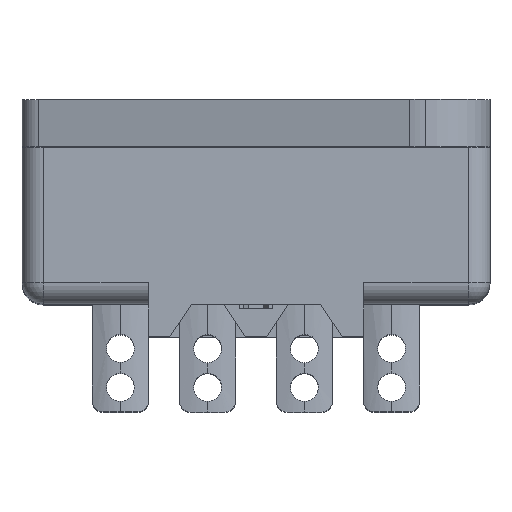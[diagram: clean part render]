
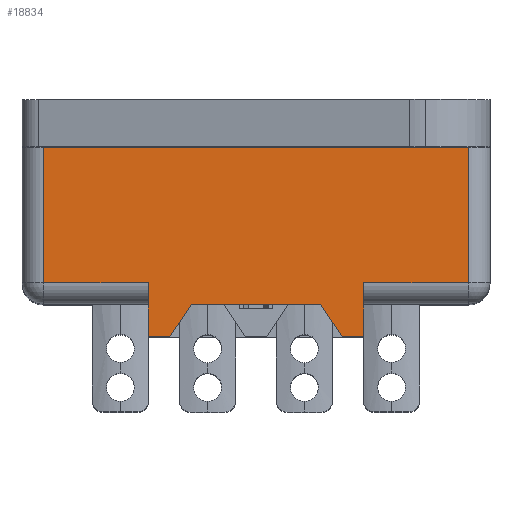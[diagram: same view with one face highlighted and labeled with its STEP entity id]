
A CAD part, top view. The second image highlights one B-rep face of the part: STEP entity #18834.
In plain terms, the highlighted planar face has unit normal (0, 0, 1).
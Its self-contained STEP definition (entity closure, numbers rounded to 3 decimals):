
#4170 = VECTOR ( 'NONE', #5164, 1000. ) ;
#5162 = LINE ( 'NONE', #5163, #4170 ) ;
#5163 = CARTESIAN_POINT ( 'NONE',  ( 1.5, -7.3, 12.6 ) ) ;
#5164 = DIRECTION ( 'NONE',  ( -1., 0., 0. ) ) ;
#7113 = VECTOR ( 'NONE', #24238, 1000. ) ;
#7157 = EDGE_CURVE ( 'NONE', #9246, #9247, #24236, .T. ) ;
#7166 = EDGE_CURVE ( 'NONE', #9259, #9260, #24263, .T. ) ;
#7234 = EDGE_CURVE ( 'NONE', #9247, #9261, #24493, .T. ) ;
#7280 = EDGE_CURVE ( 'NONE', #9371, #9370, #24631, .T. ) ;
#7283 = EDGE_CURVE ( 'NONE', #9260, #9373, #14667, .T. ) ;
#7284 = EDGE_CURVE ( 'NONE', #9372, #9373, #14670, .T. ) ;
#7285 = EDGE_CURVE ( 'NONE', #8986, #9259, #14673, .T. ) ;
#7286 = EDGE_CURVE ( 'NONE', #9261, #8985, #14676, .T. ) ;
#7287 = EDGE_CURVE ( 'NONE', #9246, #9374, #14679, .T. ) ;
#7288 = EDGE_CURVE ( 'NONE', #9374, #9371, #14682, .T. ) ;
#7289 = EDGE_CURVE ( 'NONE', #9370, #9372, #14685, .T. ) ;
#7485 = VECTOR ( 'NONE', #24633, 1000. ) ;
#7487 = VECTOR ( 'NONE', #14669, 1000. ) ;
#7488 = VECTOR ( 'NONE', #14672, 1000. ) ;
#7489 = VECTOR ( 'NONE', #14675, 1000. ) ;
#7491 = VECTOR ( 'NONE', #14678, 1000. ) ;
#7492 = VECTOR ( 'NONE', #14681, 1000. ) ;
#7493 = VECTOR ( 'NONE', #14684, 1000. ) ;
#7494 = VECTOR ( 'NONE', #14687, 1000. ) ;
#7866 = AXIS2_PLACEMENT_3D ( 'NONE', #13422, #13423, #13424 ) ;
#7887 = FACE_OUTER_BOUND ( 'NONE', #8266, .T. ) ;
#7967 = VECTOR ( 'NONE', #24265, 1000. ) ;
#8266 = EDGE_LOOP ( 'NONE', ( #17910, #17912, #17911, #17913, #17914, #17915, #17917, #17918, #17916, #17920, #17919, #17921 ) ) ;
#8985 = VERTEX_POINT ( 'NONE', #25116 ) ;
#8986 = VERTEX_POINT ( 'NONE', #25117 ) ;
#9246 = VERTEX_POINT ( 'NONE', #25377 ) ;
#9247 = VERTEX_POINT ( 'NONE', #25378 ) ;
#9259 = VERTEX_POINT ( 'NONE', #25390 ) ;
#9260 = VERTEX_POINT ( 'NONE', #25391 ) ;
#9261 = VERTEX_POINT ( 'NONE', #25392 ) ;
#9370 = VERTEX_POINT ( 'NONE', #25501 ) ;
#9371 = VERTEX_POINT ( 'NONE', #25502 ) ;
#9372 = VERTEX_POINT ( 'NONE', #25503 ) ;
#9373 = VERTEX_POINT ( 'NONE', #25504 ) ;
#9374 = VERTEX_POINT ( 'NONE', #25505 ) ;
#13421 = PLANE ( 'NONE',  #7866 ) ;
#13422 = CARTESIAN_POINT ( 'NONE',  ( -10.875, -8.8, 12.6 ) ) ;
#13423 = DIRECTION ( 'NONE',  ( 0., 0., -1. ) ) ;
#13424 = DIRECTION ( 'NONE',  ( -1., 0., 0. ) ) ;
#14667 = LINE ( 'NONE', #14668, #7487 ) ;
#14668 = CARTESIAN_POINT ( 'NONE',  ( -5., -8.8, 12.6 ) ) ;
#14669 = DIRECTION ( 'NONE',  ( 0., 1., 0. ) ) ;
#14670 = LINE ( 'NONE', #14671, #7488 ) ;
#14671 = CARTESIAN_POINT ( 'NONE',  ( -10.875, -6.3, 12.6 ) ) ;
#14672 = DIRECTION ( 'NONE',  ( 1., 0., 0. ) ) ;
#14673 = LINE ( 'NONE', #14674, #7489 ) ;
#14674 = CARTESIAN_POINT ( 'NONE',  ( -3., -7.3, 12.6 ) ) ;
#14675 = DIRECTION ( 'NONE',  ( -0.555, -0.832, 0. ) ) ;
#14676 = LINE ( 'NONE', #14677, #7491 ) ;
#14677 = CARTESIAN_POINT ( 'NONE',  ( 4., -8.8, 12.6 ) ) ;
#14678 = DIRECTION ( 'NONE',  ( -0.555, 0.832, 0. ) ) ;
#14679 = LINE ( 'NONE', #14680, #7492 ) ;
#14680 = CARTESIAN_POINT ( 'NONE',  ( -10.875, -6.3, 12.6 ) ) ;
#14681 = DIRECTION ( 'NONE',  ( 1., 0., 0. ) ) ;
#14682 = LINE ( 'NONE', #14683, #7493 ) ;
#14683 = CARTESIAN_POINT ( 'NONE',  ( 9.875, -8.8, 12.6 ) ) ;
#14684 = DIRECTION ( 'NONE',  ( 0., 1., 0. ) ) ;
#14685 = LINE ( 'NONE', #14686, #7494 ) ;
#14686 = CARTESIAN_POINT ( 'NONE',  ( -9.875, -8.8, 12.6 ) ) ;
#14687 = DIRECTION ( 'NONE',  ( 0., -1., 0. ) ) ;
#17910 = ORIENTED_EDGE ( 'NONE', *, *, #7284, .T. ) ;
#17911 = ORIENTED_EDGE ( 'NONE', *, *, #7166, .F. ) ;
#17912 = ORIENTED_EDGE ( 'NONE', *, *, #7283, .F. ) ;
#17913 = ORIENTED_EDGE ( 'NONE', *, *, #7285, .F. ) ;
#17914 = ORIENTED_EDGE ( 'NONE', *, *, #19746, .F. ) ;
#17915 = ORIENTED_EDGE ( 'NONE', *, *, #7286, .F. ) ;
#17916 = ORIENTED_EDGE ( 'NONE', *, *, #7287, .T. ) ;
#17917 = ORIENTED_EDGE ( 'NONE', *, *, #7234, .F. ) ;
#17918 = ORIENTED_EDGE ( 'NONE', *, *, #7157, .F. ) ;
#17919 = ORIENTED_EDGE ( 'NONE', *, *, #7280, .T. ) ;
#17920 = ORIENTED_EDGE ( 'NONE', *, *, #7288, .T. ) ;
#17921 = ORIENTED_EDGE ( 'NONE', *, *, #7289, .T. ) ;
#18834 = ADVANCED_FACE ( 'NONE', ( #7887 ), #13421, .F. ) ;
#19746 = EDGE_CURVE ( 'NONE', #8985, #8986, #5162, .T. ) ;
#20246 = VECTOR ( 'NONE', #24495, 1000. ) ;
#24236 = LINE ( 'NONE', #24237, #7113 ) ;
#24237 = CARTESIAN_POINT ( 'NONE',  ( 5., -8.8, 12.6 ) ) ;
#24238 = DIRECTION ( 'NONE',  ( 0., -1., 0. ) ) ;
#24263 = LINE ( 'NONE', #24264, #7967 ) ;
#24264 = CARTESIAN_POINT ( 'NONE',  ( -10.875, -8.8, 12.6 ) ) ;
#24265 = DIRECTION ( 'NONE',  ( -1., 0., 0. ) ) ;
#24493 = LINE ( 'NONE', #24494, #20246 ) ;
#24494 = CARTESIAN_POINT ( 'NONE',  ( -10.875, -8.8, 12.6 ) ) ;
#24495 = DIRECTION ( 'NONE',  ( -1., 0., 0. ) ) ;
#24631 = LINE ( 'NONE', #24632, #7485 ) ;
#24632 = CARTESIAN_POINT ( 'NONE',  ( -10.875, 0., 12.6 ) ) ;
#24633 = DIRECTION ( 'NONE',  ( -1., 0., 0. ) ) ;
#25116 = CARTESIAN_POINT ( 'NONE',  ( 3., -7.3, 12.6 ) ) ;
#25117 = CARTESIAN_POINT ( 'NONE',  ( -3., -7.3, 12.6 ) ) ;
#25377 = CARTESIAN_POINT ( 'NONE',  ( 5., -6.3, 12.6 ) ) ;
#25378 = CARTESIAN_POINT ( 'NONE',  ( 5., -8.8, 12.6 ) ) ;
#25390 = CARTESIAN_POINT ( 'NONE',  ( -4., -8.8, 12.6 ) ) ;
#25391 = CARTESIAN_POINT ( 'NONE',  ( -5., -8.8, 12.6 ) ) ;
#25392 = CARTESIAN_POINT ( 'NONE',  ( 4., -8.8, 12.6 ) ) ;
#25501 = CARTESIAN_POINT ( 'NONE',  ( -9.875, 0., 12.6 ) ) ;
#25502 = CARTESIAN_POINT ( 'NONE',  ( 9.875, 0., 12.6 ) ) ;
#25503 = CARTESIAN_POINT ( 'NONE',  ( -9.875, -6.3, 12.6 ) ) ;
#25504 = CARTESIAN_POINT ( 'NONE',  ( -5., -6.3, 12.6 ) ) ;
#25505 = CARTESIAN_POINT ( 'NONE',  ( 9.875, -6.3, 12.6 ) ) ;
